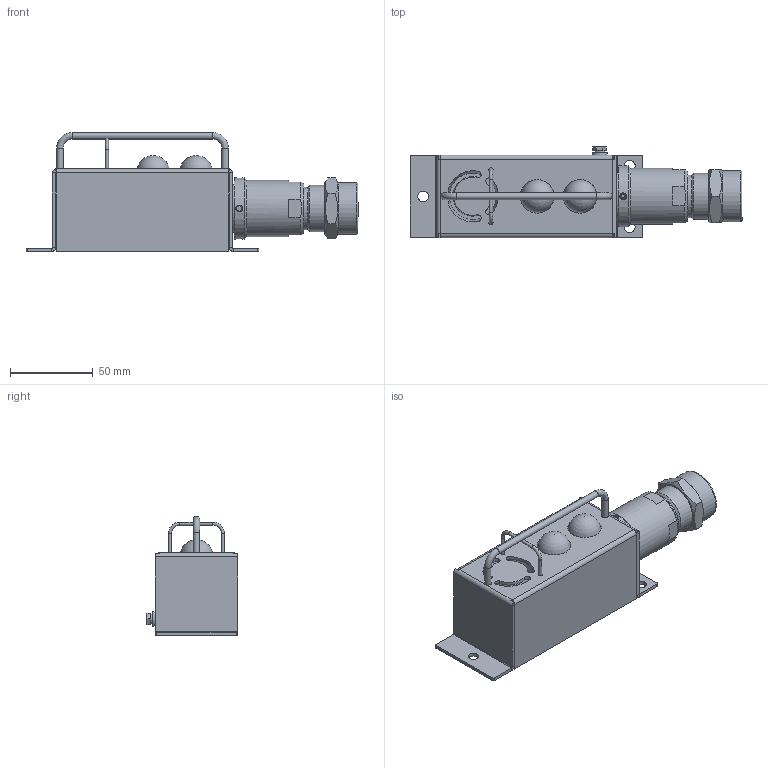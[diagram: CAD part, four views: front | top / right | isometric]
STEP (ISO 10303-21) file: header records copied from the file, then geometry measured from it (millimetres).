
FILE_DESCRIPTION(('STEP AP203'), '1');
FILE_NAME('ﾂﾑ-3(5)ﾌ-ﾊﾇ.stp', '2020-12-10T11:25:29', ($), ($), 'ASCON STEP Converter 1.3', 'Kompas 3D', '');
FILE_SCHEMA(('CONFIG_CONTROL_DESIGN','SUPPORT_RESOURCE_SCHEMA'));
Length unit declared in the file: millimetre
Products named in the file (1): 6
Bounding box: 201.1 x 55.4 x 72.02 mm (x, y, z)
Volume: 117324.9 mm3; surface area: 87823.8 mm2
Topology: 2 solids, 4 shells, 438 faces, 1019 edges, 639 vertices
Faces by surface type: plane 265, cylinder 115, cone 40, torus 9, bspline 5, sphere 4
Full cylindrical faces by diameter (mm): 2 x5, 2.013 x2, 2.5 x8, 3 x4, 3.24 x3, 3.4 x2, 4 x6, 4.5 x4, 6.6 x3, 8 x2, 8.5 x1, 9 x1, 12 x1, 13 x1, 15 x1, 19 x1, 20 x1, 20.5 x2, 23.5 x1, 24 x4, 25 x1, 25.8 x1, 26 x1, 26.376 x1, 27.8 x2, 28 x1, 28.5 x1, 28.6 x1, 30 x1, 30.5 x2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
Entity records: 15159 total; most frequent: CARTESIAN_POINT 4894, DIRECTION 2148, ORIENTED_EDGE 2032, EDGE_CURVE 1017, AXIS2_PLACEMENT_3D 779, VERTEX_POINT 639, LINE 590, VECTOR 590
